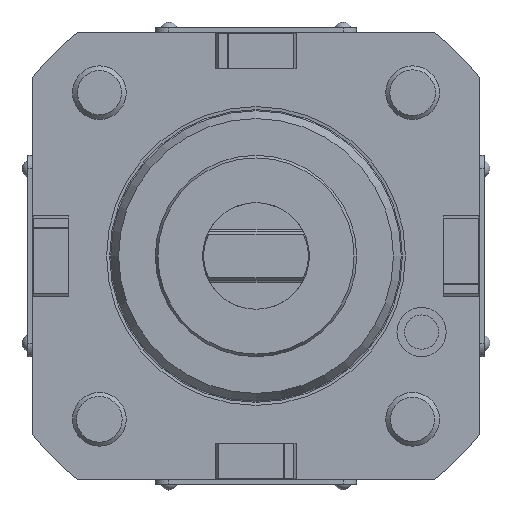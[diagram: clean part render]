
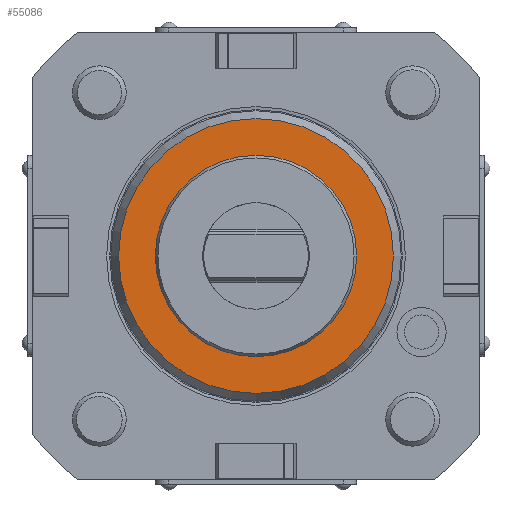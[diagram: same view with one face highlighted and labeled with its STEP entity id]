
A CAD part, left-side view. The second image highlights one B-rep face of the part: STEP entity #55086.
In plain terms, the highlighted planar face has unit normal (-1, 0, 0).
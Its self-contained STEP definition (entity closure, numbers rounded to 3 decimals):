
#21900=CIRCLE('',#53407,30.718);
#21901=CIRCLE('',#53409,22.5);
#22290=ORIENTED_EDGE('',*,*,#30449,.F.);
#22291=ORIENTED_EDGE('',*,*,#30450,.T.);
#28986=VERTEX_POINT('',#38566);
#28987=VERTEX_POINT('',#38569);
#30449=EDGE_CURVE('',#28986,#28986,#21900,.T.);
#30450=EDGE_CURVE('',#28987,#28987,#21901,.T.);
#32484=EDGE_LOOP('',(#22290));
#32485=EDGE_LOOP('',(#22291));
#33689=FACE_BOUND('',#32484,.T.);
#33690=FACE_BOUND('',#32485,.T.);
#35065=DIRECTION('',(1.,0.,0.));
#35066=DIRECTION('',(0.,0.,-30.718));
#35067=DIRECTION('',(-1.,0.,0.));
#35068=DIRECTION('',(0.,1.,0.));
#35069=DIRECTION('',(1.,0.,0.));
#35070=DIRECTION('',(0.,0.,22.5));
#38566=CARTESIAN_POINT('',(-32.,0.,-30.718));
#38567=CARTESIAN_POINT('',(-32.,0.,0.));
#38568=CARTESIAN_POINT('',(-32.,0.,-30.718));
#38569=CARTESIAN_POINT('',(-32.,0.,22.5));
#38570=CARTESIAN_POINT('',(-32.,0.,0.));
#53407=AXIS2_PLACEMENT_3D('',#38567,#35065,#35066);
#53408=AXIS2_PLACEMENT_3D('',#38568,#35067,#35068);
#53409=AXIS2_PLACEMENT_3D('',#38570,#35069,#35070);
#54438=PLANE('',#53408);
#55086=ADVANCED_FACE('',(#33689,#33690),#54438,.T.);
